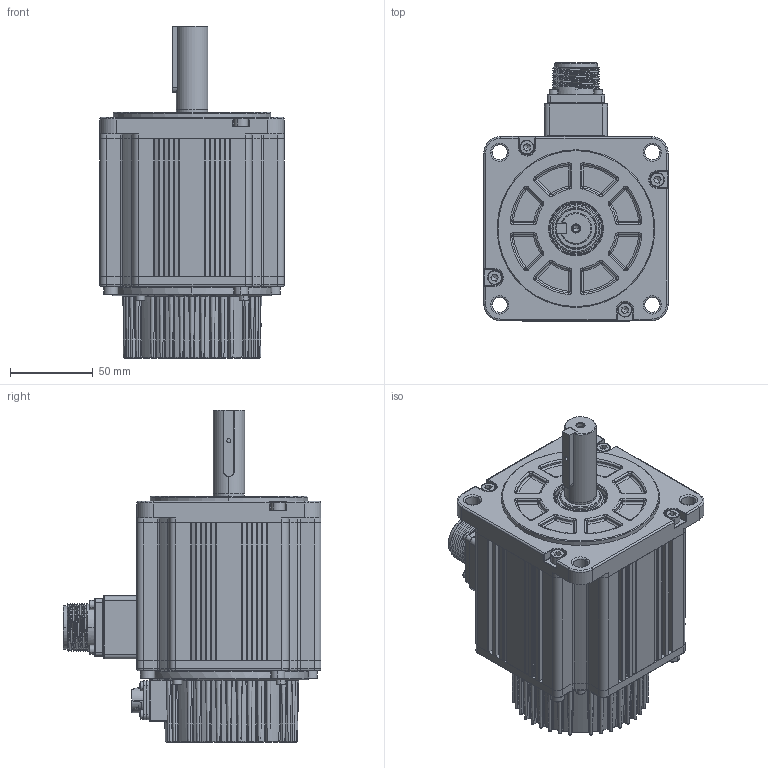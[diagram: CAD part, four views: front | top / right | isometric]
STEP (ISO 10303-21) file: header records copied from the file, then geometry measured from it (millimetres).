
FILE_DESCRIPTION (( 'STEP AP214' ), '1' );
FILE_NAME ('83酗儂褲 拸价陬.STEP', '2021-08-10T10:49:32', ( '' ), ( '' ), 'SwSTEP 2.0', 'SolidWorks 2014', '' );
FILE_SCHEMA (( 'AUTOMOTIVE_DESIGN' ));
Length unit declared in the file: millimetre
Products named in the file (16): SC晤鎢ん欶200908_9郋; 囀鞠褒 M3X30; 雄薯瑤脣釱200909; 110#儂褲; 蚐猾 D00B999YF9-TC 25-32-4-110#; SC瑤諾脣芛 CMS3102A18-10P-Z; 110#隅赽郪璃; 110#ヶ傷裔; 坋趼羞攫芛蹟隊M3℅8; 囀鞠褒 M3X10; 83酗儂褲 拸价陬; 囀鞠褒 ISO 4762 M5 x 18; 110#綴傷裔; 瑤諾脣芛 SC-CMV1-R10P-1; 110#陔粣-拸价陬; 普通型 平键   C 6x6x40 带M3起键螺钉孔-1
Assembly tree (31 placements, depth 3):
  83酗儂褲 拸价陬
    110#隅赽郪璃
      110#儂褲
      SC瑤諾脣芛 CMS3102A18-10P-Z
      雄薯瑤脣釱200909
      110#ヶ傷裔
    蚐猾 D00B999YF9-TC 25-32-4-110#
    110#陔粣-拸价陬
    普通型 平键   C 6x6x40 带M3起键螺钉孔-1
    110#綴傷裔
    瑤諾脣芛 SC-CMV1-R10P-1
    SC晤鎢ん欶200908_9郋
    囀鞠褒 M3X30  x4
    囀鞠褒 M3X10  x4
    坋趼羞攫芛蹟隊M3℅8  x4
    囀鞠褒 ISO 4762 M5 x 18  x8
Bounding box: 111 x 155.4 x 200 mm (x, y, z)
Volume: 521228.5 mm3; surface area: 226627.7 mm2
Topology: 31 solids, 31 shells, 2989 faces, 7083 edges, 4085 vertices
Faces by surface type: cylinder 1036, plane 707, torus 497, bspline 297, cone 253, sphere 199
Entity records: 87758 total; most frequent: CARTESIAN_POINT 25719, DIRECTION 12899, ORIENTED_EDGE 11876, EDGE_CURVE 5938, AXIS2_PLACEMENT_3D 5454, VERTEX_POINT 3493, CIRCLE 3098, EDGE_LOOP 2759
